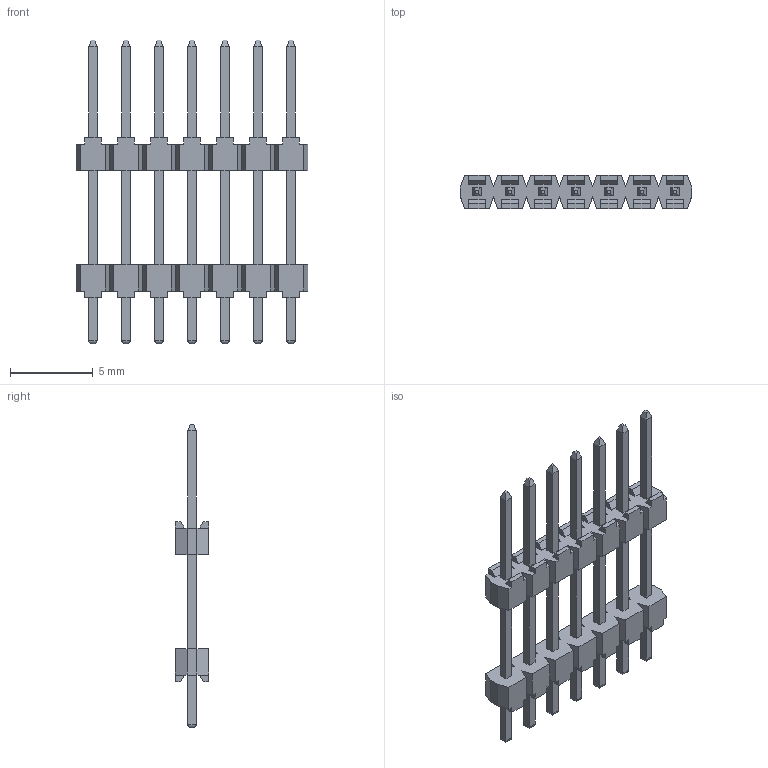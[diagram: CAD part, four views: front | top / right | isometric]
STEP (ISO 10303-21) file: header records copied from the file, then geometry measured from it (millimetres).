
FILE_DESCRIPTION(/* description */ (''),/* implementation_level */ '2;1');
FILE_NAME(/* name */ '951407-9061906-AR',/* time_stamp */ '2007-03-14T14:57:09+01:00',/* author */ (''),/* organization */ (''),/* preprocessor_version */ 'ST-DEVELOPER v9',/* originating_system */ 'UGS - NX 4.0',/* authorisation */ '');
FILE_SCHEMA (('AUTOMOTIVE_DESIGN { 1 0 10303 214 1 1 1 1 }'));
Length unit declared in the file: millimetre
Products named in the file (1): 951407-9061906-AR
Bounding box: 14 x 2 x 18.4 mm (x, y, z)
Volume: 112.7 mm3; surface area: 471.8 mm2
Topology: 1 solids, 1 shells, 358 faces, 964 edges, 624 vertices
Faces by surface type: plane 330, cylinder 28
Entity records: 10976 total; most frequent: CARTESIAN_POINT 1947, ORIENTED_EDGE 1928, DIRECTION 1710, EDGE_CURVE 964, LINE 936, VECTOR 936, VERTEX_POINT 624, AXIS2_PLACEMENT_3D 387
